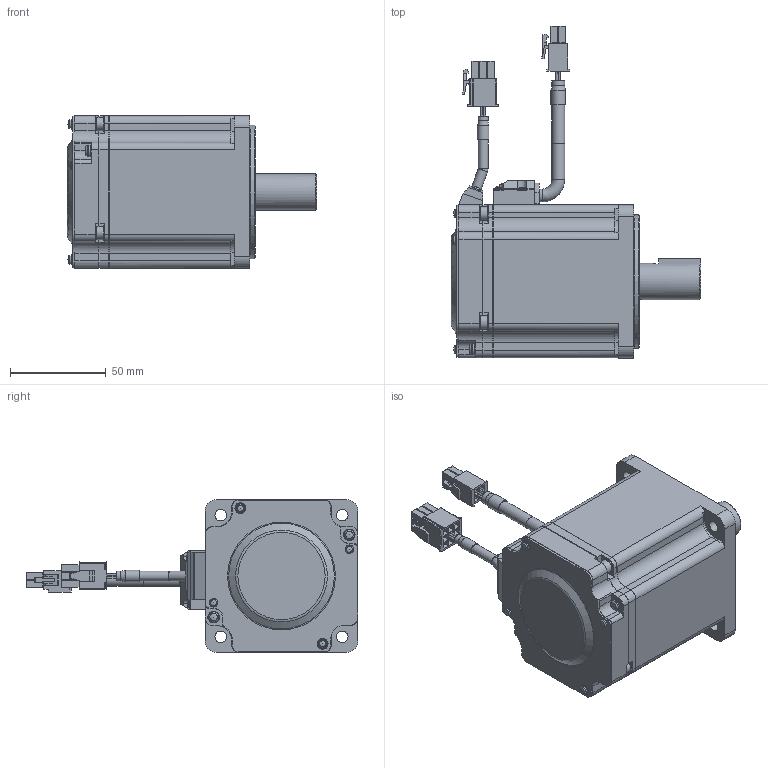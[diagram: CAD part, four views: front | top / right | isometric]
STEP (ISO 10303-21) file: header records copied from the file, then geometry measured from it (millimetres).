
FILE_DESCRIPTION( ( 'STEP AP214' ), '1' );
FILE_NAME( 'p:/temp/worker_1/temp/app_49_0201906101625507131608310e898ce_000000_00_00_000000/format_0/MHMF082L1U2 2.stp', '2019-06-10T14:25:53', ( '' ), ( '' ), ' ', 'PARTsolutions', ' ' );
FILE_SCHEMA( ( 'AUTOMOTIVE_DESIGN { 1 0 10303 214 1 1 1 1 }' ) );
Length unit declared in the file: millimetre
Products named in the file (8): MHMF082L1U2 2; _MHMF082L1U2; _Cable Motor Bottom 05; _Cable Motor Top 05; _Motor Connector_2; _Cable Brake Bottom 05; _Cable Brake Top 05; _MHMF Connector 9 Pin_A6
Assembly tree (7 placements, depth 2):
  MHMF082L1U2 2
    _MHMF082L1U2
    _Cable Motor Bottom 05
    _Cable Motor Top 05
    _Motor Connector_2
    _Cable Brake Bottom 05
    _Cable Brake Top 05
    _MHMF Connector 9 Pin_A6
Bounding box: 130.4 x 173.65 x 80 mm (x, y, z)
Volume: 566503.1 mm3; surface area: 59431.6 mm2
Topology: 7 solids, 7 shells, 799 faces, 2053 edges, 1342 vertices
Faces by surface type: plane 515, cylinder 226, cone 29, torus 17, sphere 12
Full cylindrical faces by diameter (mm): 1 x8, 1.82 x4, 2.6 x13, 4.134 x1, 4.3 x4, 4.5 x2, 5.1 x3, 5.2 x2, 5.7 x2, 5.9 x2, 6 x7, 6.7 x4, 7 x4, 7.6 x1, 8 x4, 19 x1, 19.8 x1, 23 x1, 70 x1
Entity records: 29971 total; most frequent: CARTESIAN_POINT 4156, DIRECTION 4031, ORIENTED_EDGE 3802, EDGE_CURVE 1901, LINE 1351, VECTOR 1351, AXIS2_PLACEMENT_3D 1340, VERTEX_POINT 1325
